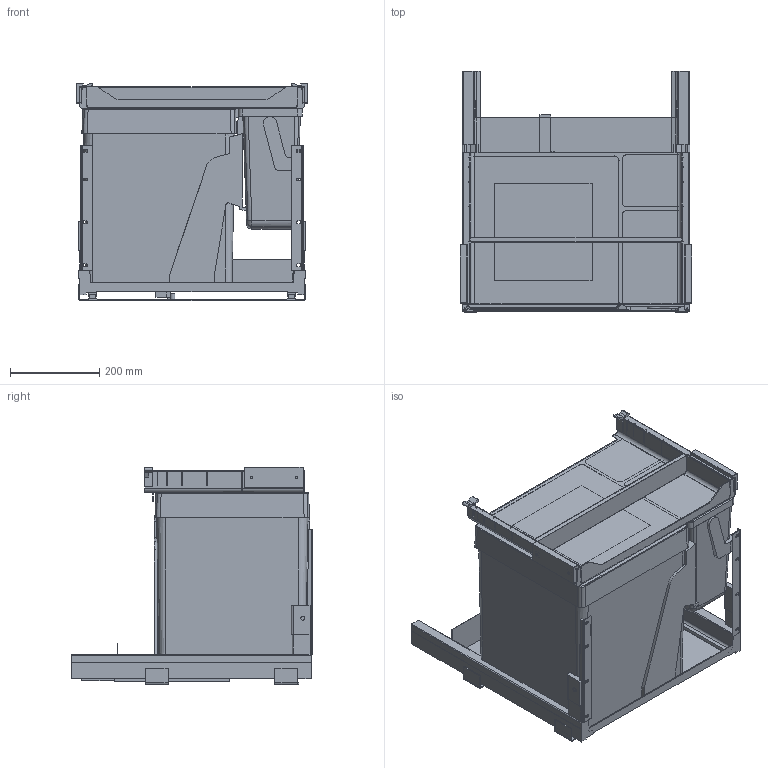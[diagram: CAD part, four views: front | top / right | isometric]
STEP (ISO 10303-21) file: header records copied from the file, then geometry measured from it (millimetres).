
FILE_DESCRIPTION(('STEP AP242'),'1');
FILE_NAME('OPO_53.433.00_volu_schn_3d.stp','2025-11-08T20:29:07',(' '),(' '),'Spatial InterOp 3D',' ',' ');
FILE_SCHEMA(('AP242_MANAGED_MODEL_BASED_3D_ENGINEERING_MIM_LF {1 0 10303 442 1 1 4}'));
Length unit declared in the file: millimetre
Products named in the file (1): 1
Bounding box: 518 x 542 x 487.85 mm (x, y, z)
Volume: 57959973.7 mm3; surface area: 2152858.4 mm2
Topology: 1 solids, 1 shells, 846 faces, 4717 edges, 6121 vertices
Faces by surface type: plane 436, cylinder 342, sphere 20, cone 20, torus 16, bspline 12
Entity records: 64790 total; most frequent: CARTESIAN_POINT 9691, DIRECTION 7467, ORIENTED_EDGE 4888, LINE 3581, VECTOR 3581, STYLED_ITEM 3119, PRESENTATION_STYLE_ASSIGNMENT 3119, COLOUR_RGB 3119
